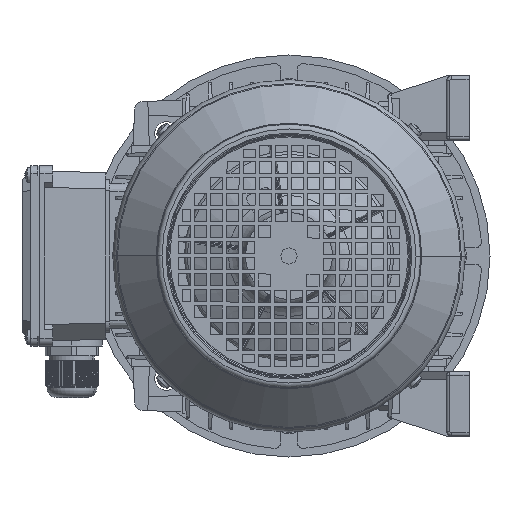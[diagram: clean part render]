
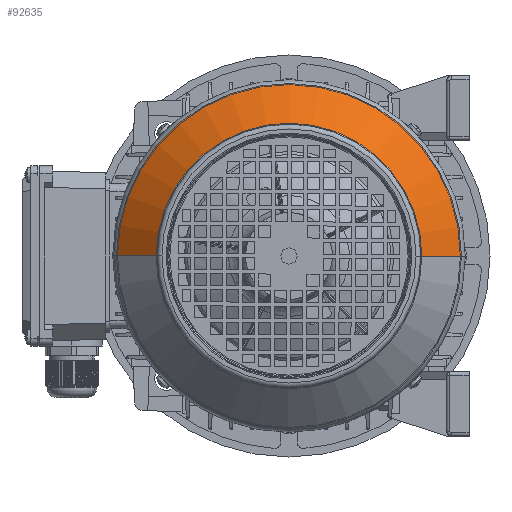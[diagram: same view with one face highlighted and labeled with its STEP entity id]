
A CAD part, left-side view. The second image highlights one B-rep face of the part: STEP entity #92635.
In plain terms, the highlighted conical face has half-angle 45 degrees and reference radius 82.586 mm.
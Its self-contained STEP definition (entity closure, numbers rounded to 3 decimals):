
#33169 = DIRECTION ( 'NONE',  ( 0., 0., 1. ) ) ;
#33170 = DIRECTION ( 'NONE',  ( -1., 0., 0. ) ) ;
#33171 = CARTESIAN_POINT ( 'NONE',  ( 99.414, 0., 0. ) ) ;
#33172 = AXIS2_PLACEMENT_3D ( 'NONE', #33171, #33170, #33169 ) ;
#33173 = CONICAL_SURFACE ( 'NONE', #33172, 82.586, 0.785 ) ;
#33175 = FACE_OUTER_BOUND ( 'NONE', #92639, .T. ) ;
#33293 = DIRECTION ( 'NONE',  ( 0., 0., 1. ) ) ;
#33294 = DIRECTION ( 'NONE',  ( -1., 0., 0. ) ) ;
#33295 = CARTESIAN_POINT ( 'NONE',  ( 74.743, 0., 0. ) ) ;
#33296 = AXIS2_PLACEMENT_3D ( 'NONE', #33295, #33294, #33293 ) ;
#33297 = CIRCLE ( 'NONE', #33296, 107.257 ) ;
#42109 = CARTESIAN_POINT ( 'NONE',  ( 74.743, 0., 107.257 ) ) ;
#42127 = CARTESIAN_POINT ( 'NONE',  ( 99.414, 0., 82.586 ) ) ;
#42142 = DIRECTION ( 'NONE',  ( -0.707, 0., 0.707 ) ) ;
#42143 = VECTOR ( 'NONE', #42142, 1000. ) ;
#42144 = CARTESIAN_POINT ( 'NONE',  ( 99.414, 0., 82.586 ) ) ;
#42145 = LINE ( 'NONE', #42144, #42143 ) ;
#42269 = CARTESIAN_POINT ( 'NONE',  ( 74.743, 0., -107.257 ) ) ;
#42299 = LINE ( 'NONE', #42367, #42366 ) ;
#42306 = CARTESIAN_POINT ( 'NONE',  ( 99.414, 0., -82.586 ) ) ;
#42354 = DIRECTION ( 'NONE',  ( 0., 0., 1. ) ) ;
#42355 = DIRECTION ( 'NONE',  ( -1., 0., 0. ) ) ;
#42356 = AXIS2_PLACEMENT_3D ( 'NONE', #42361, #42355, #42354 ) ;
#42357 = CIRCLE ( 'NONE', #42356, 82.586 ) ;
#42361 = CARTESIAN_POINT ( 'NONE',  ( 99.414, 0., 0. ) ) ;
#42365 = DIRECTION ( 'NONE',  ( -0.707, 0., -0.707 ) ) ;
#42366 = VECTOR ( 'NONE', #42365, 1000. ) ;
#42367 = CARTESIAN_POINT ( 'NONE',  ( 99.414, 0., -82.586 ) ) ;
#92635 = ADVANCED_FACE ( 'NONE', ( #33175 ), #33173, .T. ) ;
#92639 = EDGE_LOOP ( 'NONE', ( #92646, #92647, #92651, #92718 ) ) ;
#92646 = ORIENTED_EDGE ( 'NONE', *, *, #119131, .F. ) ;
#92647 = ORIENTED_EDGE ( 'NONE', *, *, #119142, .T. ) ;
#92651 = ORIENTED_EDGE ( 'NONE', *, *, #118971, .T. ) ;
#92718 = ORIENTED_EDGE ( 'NONE', *, *, #92721, .F. ) ;
#92721 = EDGE_CURVE ( 'NONE', #119037, #118929, #33297, .T. ) ;
#118911 = VERTEX_POINT ( 'NONE', #42127 ) ;
#118929 = VERTEX_POINT ( 'NONE', #42109 ) ;
#118971 = EDGE_CURVE ( 'NONE', #118911, #118929, #42145, .T. ) ;
#119037 = VERTEX_POINT ( 'NONE', #42269 ) ;
#119119 = VERTEX_POINT ( 'NONE', #42306 ) ;
#119131 = EDGE_CURVE ( 'NONE', #119119, #119037, #42299, .T. ) ;
#119142 = EDGE_CURVE ( 'NONE', #119119, #118911, #42357, .T. ) ;
